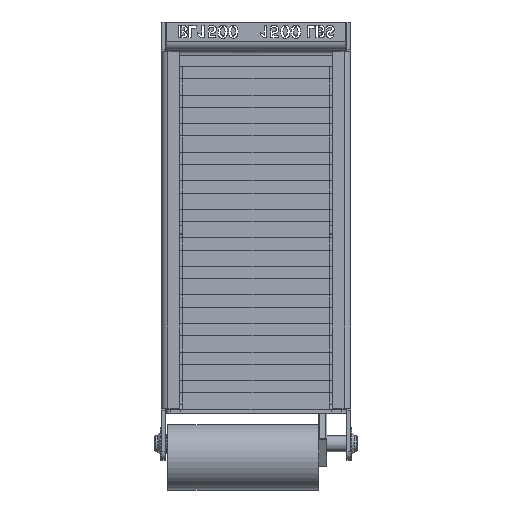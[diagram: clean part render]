
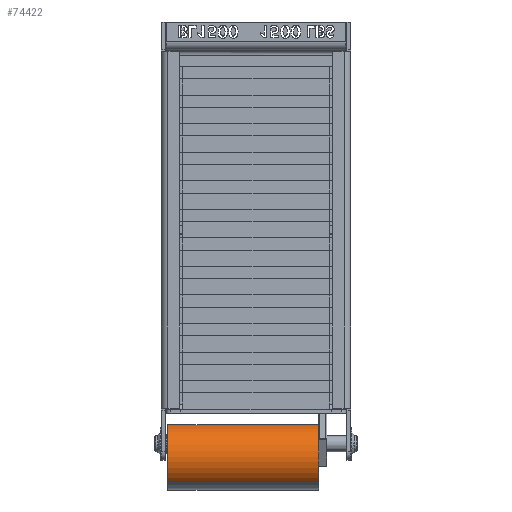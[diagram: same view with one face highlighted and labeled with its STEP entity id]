
A CAD part, front view. The second image highlights one B-rep face of the part: STEP entity #74422.
In plain terms, the highlighted cylindrical face has radius 25.4 mm (diameter 50.8 mm), a partial arc.
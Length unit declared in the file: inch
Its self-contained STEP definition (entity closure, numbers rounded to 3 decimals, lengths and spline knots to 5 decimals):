
#1293 = ORIENTED_EDGE ( 'NONE', *, *, #75242, .T. ) ;
#1294 = DIRECTION ( 'NONE',  ( 1., 0., 0. ) ) ;
#1372 = CARTESIAN_POINT ( 'NONE',  ( -2.70375, -1.09653, -7.72878 ) ) ;
#6742 = DIRECTION ( 'NONE',  ( 1., 0., 0. ) ) ;
#7051 = ORIENTED_EDGE ( 'NONE', *, *, #70596, .F. ) ;
#8395 = CARTESIAN_POINT ( 'NONE',  ( 1.92125, 0.22968, -6.23173 ) ) ;
#11664 = ORIENTED_EDGE ( 'NONE', *, *, #25044, .T. ) ;
#14319 = VERTEX_POINT ( 'NONE', #81381 ) ;
#16639 = CARTESIAN_POINT ( 'NONE',  ( 1.92125, -0.43343, -6.98026 ) ) ;
#17536 = VERTEX_POINT ( 'NONE', #1372 ) ;
#23418 = DIRECTION ( 'NONE',  ( 0., -0.663, -0.749 ) ) ;
#25044 = EDGE_CURVE ( 'NONE', #14319, #17536, #85874, .T. ) ;
#25244 = VECTOR ( 'NONE', #6742, 39.37008 ) ;
#28466 = DIRECTION ( 'NONE',  ( 1., 0., 0. ) ) ;
#29799 = CARTESIAN_POINT ( 'NONE',  ( -2.70375, -1.09653, -7.72878 ) ) ;
#33806 = AXIS2_PLACEMENT_3D ( 'NONE', #91139, #28466, #97524 ) ;
#35539 = AXIS2_PLACEMENT_3D ( 'NONE', #16639, #1294, #45808 ) ;
#38158 = AXIS2_PLACEMENT_3D ( 'NONE', #85378, #69309, #23418 ) ;
#43003 = EDGE_CURVE ( 'NONE', #14319, #69547, #59692, .T. ) ;
#45319 = VECTOR ( 'NONE', #61868, 39.37008 ) ;
#45808 = DIRECTION ( 'NONE',  ( 0., -0.663, -0.749 ) ) ;
#53987 = LINE ( 'NONE', #29799, #25244 ) ;
#55212 = VERTEX_POINT ( 'NONE', #64470 ) ;
#55924 = EDGE_LOOP ( 'NONE', ( #96484, #11664, #1293, #7051 ) ) ;
#59692 = LINE ( 'NONE', #99416, #45319 ) ;
#61868 = DIRECTION ( 'NONE',  ( 1., 0., 0. ) ) ;
#64470 = CARTESIAN_POINT ( 'NONE',  ( 1.92125, -1.09653, -7.72878 ) ) ;
#67791 = CIRCLE ( 'NONE', #35539, 1. ) ;
#69309 = DIRECTION ( 'NONE',  ( 1., 0., 0. ) ) ;
#69547 = VERTEX_POINT ( 'NONE', #8395 ) ;
#70596 = EDGE_CURVE ( 'NONE', #69547, #55212, #67791, .T. ) ;
#74377 = CYLINDRICAL_SURFACE ( 'NONE', #33806, 1. ) ;
#74422 = ADVANCED_FACE ( 'NONE', ( #84049 ), #74377, .T. ) ;
#75242 = EDGE_CURVE ( 'NONE', #17536, #55212, #53987, .T. ) ;
#81381 = CARTESIAN_POINT ( 'NONE',  ( -2.70375, 0.22968, -6.23173 ) ) ;
#84049 = FACE_OUTER_BOUND ( 'NONE', #55924, .T. ) ;
#85378 = CARTESIAN_POINT ( 'NONE',  ( -2.70375, -0.43343, -6.98026 ) ) ;
#85874 = CIRCLE ( 'NONE', #38158, 1. ) ;
#91139 = CARTESIAN_POINT ( 'NONE',  ( -2.70375, -0.43343, -6.98026 ) ) ;
#96484 = ORIENTED_EDGE ( 'NONE', *, *, #43003, .F. ) ;
#97524 = DIRECTION ( 'NONE',  ( 0., -0.663, -0.749 ) ) ;
#99416 = CARTESIAN_POINT ( 'NONE',  ( -2.70375, 0.22968, -6.23173 ) ) ;
